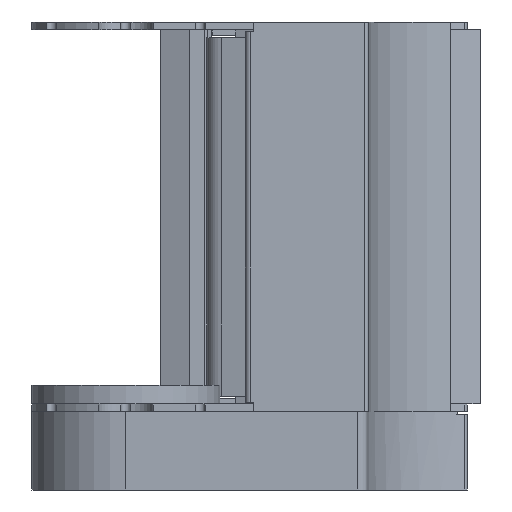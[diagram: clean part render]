
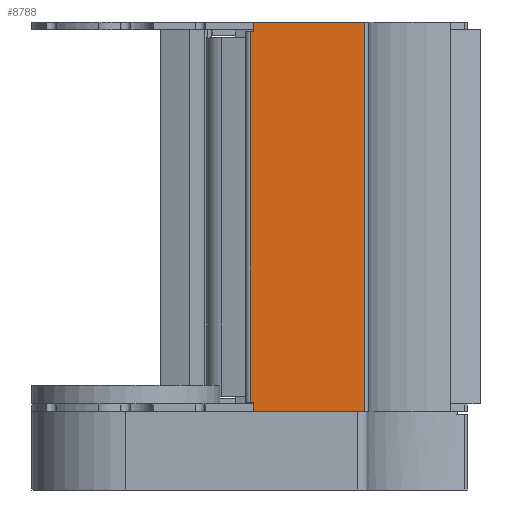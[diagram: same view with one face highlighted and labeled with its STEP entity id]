
A CAD part, front view. The second image highlights one B-rep face of the part: STEP entity #8788.
In plain terms, the highlighted planar face has unit normal (0, -1, 0).
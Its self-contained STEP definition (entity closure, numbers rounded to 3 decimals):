
#229 = CARTESIAN_POINT ( 'NONE',  ( 37.279, -61., 124.5 ) ) ;
#686 = ORIENTED_EDGE ( 'NONE', *, *, #12347, .F. ) ;
#790 = CARTESIAN_POINT ( 'NONE',  ( 37.279, -61., 124.5 ) ) ;
#1315 = DIRECTION ( 'NONE',  ( -1., 0., 0. ) ) ;
#1354 = ORIENTED_EDGE ( 'NONE', *, *, #10828, .T. ) ;
#1432 = VECTOR ( 'NONE', #12685, 1000. ) ;
#1481 = DIRECTION ( 'NONE',  ( 0., 0., 1. ) ) ;
#2153 = CARTESIAN_POINT ( 'NONE',  ( 37.279, -61., -124.5 ) ) ;
#2461 = VECTOR ( 'NONE', #1481, 1000. ) ;
#2657 = EDGE_CURVE ( 'NONE', #3695, #8914, #4064, .T. ) ;
#2722 = CARTESIAN_POINT ( 'NONE',  ( -33.721, -61., 118.5 ) ) ;
#2859 = DIRECTION ( 'NONE',  ( 1., 0., 0. ) ) ;
#2933 = VERTEX_POINT ( 'NONE', #9491 ) ;
#2951 = VERTEX_POINT ( 'NONE', #790 ) ;
#3114 = LINE ( 'NONE', #11180, #11296 ) ;
#3695 = VERTEX_POINT ( 'NONE', #7097 ) ;
#4064 = LINE ( 'NONE', #8063, #1432 ) ;
#4187 = VERTEX_POINT ( 'NONE', #10364 ) ;
#4894 = VERTEX_POINT ( 'NONE', #6693 ) ;
#4904 = CARTESIAN_POINT ( 'NONE',  ( -33.721, -61., -124.5 ) ) ;
#5134 = DIRECTION ( 'NONE',  ( 1., 0., 0. ) ) ;
#5583 = ORIENTED_EDGE ( 'NONE', *, *, #8061, .F. ) ;
#6309 = ORIENTED_EDGE ( 'NONE', *, *, #11066, .T. ) ;
#6693 = CARTESIAN_POINT ( 'NONE',  ( -35.721, -61., -118.5 ) ) ;
#6766 = CARTESIAN_POINT ( 'NONE',  ( -33.721, -61., 124.5 ) ) ;
#6957 = DIRECTION ( 'NONE',  ( 0., -1., 0. ) ) ;
#7010 = EDGE_LOOP ( 'NONE', ( #9263, #6309, #1354, #10474, #10323, #11594, #5583, #686 ) ) ;
#7097 = CARTESIAN_POINT ( 'NONE',  ( -33.721, -61., -118.5 ) ) ;
#7886 = PLANE ( 'NONE',  #8175 ) ;
#7937 = LINE ( 'NONE', #8580, #9638 ) ;
#7999 = LINE ( 'NONE', #9256, #2461 ) ;
#8034 = VECTOR ( 'NONE', #8222, 1000. ) ;
#8061 = EDGE_CURVE ( 'NONE', #4894, #2933, #12491, .T. ) ;
#8063 = CARTESIAN_POINT ( 'NONE',  ( -33.721, -61., -118.5 ) ) ;
#8094 = EDGE_CURVE ( 'NONE', #12722, #11620, #7999, .T. ) ;
#8175 = AXIS2_PLACEMENT_3D ( 'NONE', #11864, #6957, #12816 ) ;
#8222 = DIRECTION ( 'NONE',  ( 1., 0., 0. ) ) ;
#8580 = CARTESIAN_POINT ( 'NONE',  ( 37.279, -61., -305.911 ) ) ;
#8620 = DIRECTION ( 'NONE',  ( 0., 0., 1. ) ) ;
#8642 = EDGE_CURVE ( 'NONE', #2933, #12722, #11101, .T. ) ;
#8788 = ADVANCED_FACE ( 'NONE', ( #9687 ), #7886, .T. ) ;
#8814 = LINE ( 'NONE', #229, #8034 ) ;
#8914 = VERTEX_POINT ( 'NONE', #4904 ) ;
#9256 = CARTESIAN_POINT ( 'NONE',  ( -33.721, -61., 118.5 ) ) ;
#9263 = ORIENTED_EDGE ( 'NONE', *, *, #2657, .T. ) ;
#9491 = CARTESIAN_POINT ( 'NONE',  ( -35.721, -61., 118.5 ) ) ;
#9638 = VECTOR ( 'NONE', #8620, 1000. ) ;
#9687 = FACE_OUTER_BOUND ( 'NONE', #7010, .T. ) ;
#9708 = CARTESIAN_POINT ( 'NONE',  ( -35.721, -61., 118.5 ) ) ;
#10253 = DIRECTION ( 'NONE',  ( 0., 0., 1. ) ) ;
#10323 = ORIENTED_EDGE ( 'NONE', *, *, #8094, .F. ) ;
#10364 = CARTESIAN_POINT ( 'NONE',  ( 37.279, -61., -124.5 ) ) ;
#10474 = ORIENTED_EDGE ( 'NONE', *, *, #12404, .F. ) ;
#10491 = VECTOR ( 'NONE', #10253, 1000. ) ;
#10828 = EDGE_CURVE ( 'NONE', #4187, #2951, #7937, .T. ) ;
#11066 = EDGE_CURVE ( 'NONE', #8914, #4187, #11794, .T. ) ;
#11101 = LINE ( 'NONE', #9708, #12481 ) ;
#11180 = CARTESIAN_POINT ( 'NONE',  ( -33.721, -61., -118.5 ) ) ;
#11296 = VECTOR ( 'NONE', #1315, 1000. ) ;
#11594 = ORIENTED_EDGE ( 'NONE', *, *, #8642, .F. ) ;
#11620 = VERTEX_POINT ( 'NONE', #6766 ) ;
#11794 = LINE ( 'NONE', #2153, #11939 ) ;
#11864 = CARTESIAN_POINT ( 'NONE',  ( 37.279, -61., -305.911 ) ) ;
#11939 = VECTOR ( 'NONE', #5134, 1000. ) ;
#12324 = CARTESIAN_POINT ( 'NONE',  ( -35.721, -61., -305.911 ) ) ;
#12347 = EDGE_CURVE ( 'NONE', #3695, #4894, #3114, .T. ) ;
#12404 = EDGE_CURVE ( 'NONE', #11620, #2951, #8814, .T. ) ;
#12481 = VECTOR ( 'NONE', #2859, 1000. ) ;
#12491 = LINE ( 'NONE', #12324, #10491 ) ;
#12685 = DIRECTION ( 'NONE',  ( 0., 0., -1. ) ) ;
#12722 = VERTEX_POINT ( 'NONE', #2722 ) ;
#12816 = DIRECTION ( 'NONE',  ( 0., 0., -1. ) ) ;
